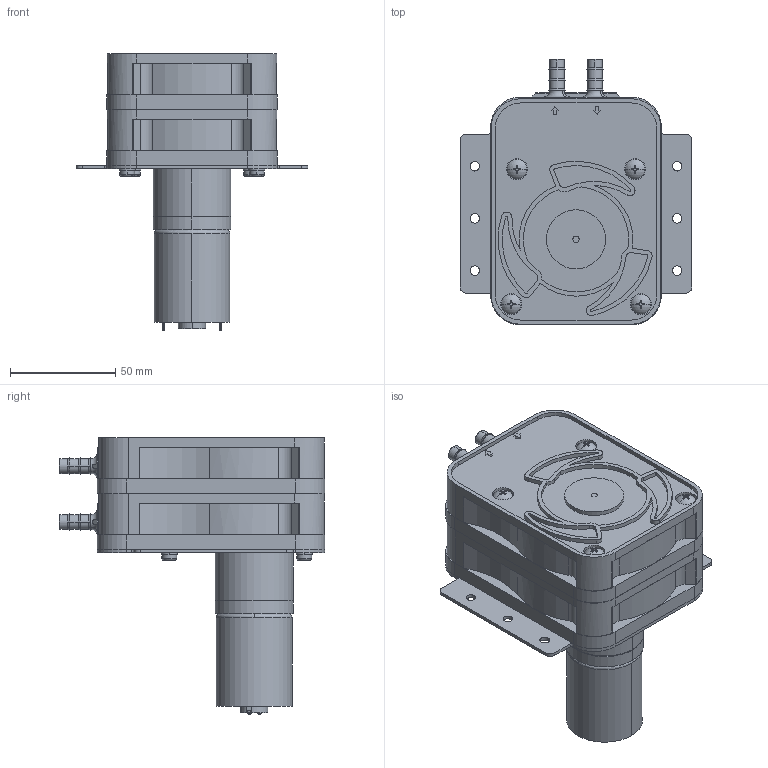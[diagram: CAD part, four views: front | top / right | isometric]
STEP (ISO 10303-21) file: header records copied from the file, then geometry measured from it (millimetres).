
FILE_DESCRIPTION (( 'STEP AP214' ), '1' );
FILE_NAME ('RP-2S06x-1000Z-.STEP', '2021-06-14T01:30:58', ( '' ), ( '' ), 'SwSTEP 2.0', 'SolidWorks 2021', '' );
FILE_SCHEMA (( 'AUTOMOTIVE_DESIGN' ));
Length unit declared in the file: millimetre
Products named in the file (8): WEB用上ケース; WEB用下ケース; ソリッド1-8; TP-3644G-HM-36-S-24; WEB用ジョイナー; AR-BL29_RP-S_モーター取付板（曲げなし）; ソリッド1-16; RP-2S06x-1000Z-
Assembly tree (16 placements, depth 2):
  RP-2S06x-1000Z-
    ソリッド1-8  x4
    ソリッド1-16  x4
    AR-BL29_RP-S_モーター取付板（曲げなし）
    TP-3644G-HM-36-S-24
    WEB用上ケース  x2
    WEB用下ケース  x2
    WEB用ジョイナー  x2
Bounding box: 110 x 126 x 131.2 mm (x, y, z)
Volume: 619654 mm3; surface area: 155573.3 mm2
Topology: 20 solids, 24 shells, 1491 faces, 3800 edges, 2458 vertices
Faces by surface type: cylinder 718, plane 591, torus 122, cone 50, sphere 8, bspline 2
Entity records: 24508 total; most frequent: CARTESIAN_POINT 4918, DIRECTION 4294, ORIENTED_EDGE 3882, EDGE_CURVE 1941, AXIS2_PLACEMENT_3D 1681, VERTEX_POINT 1259, VECTOR 932, LINE 932
